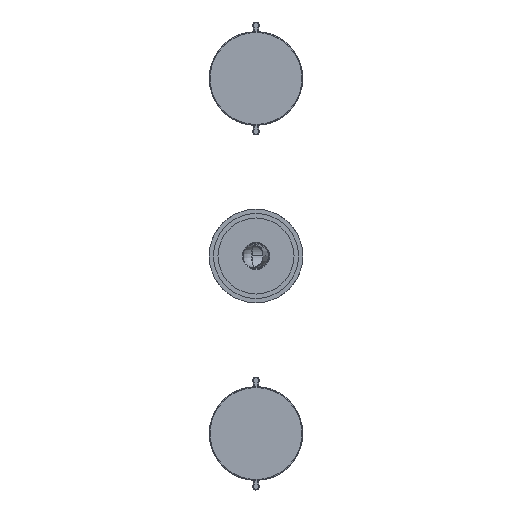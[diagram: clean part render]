
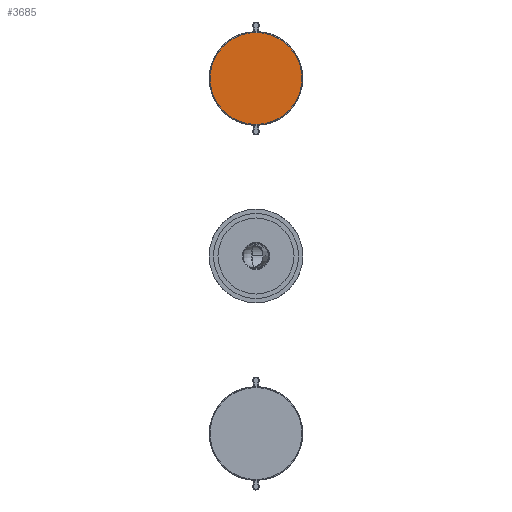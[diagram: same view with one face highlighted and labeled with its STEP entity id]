
A CAD part, left-side view. The second image highlights one B-rep face of the part: STEP entity #3685.
In plain terms, the highlighted planar face has unit normal (-1, 0, 0).
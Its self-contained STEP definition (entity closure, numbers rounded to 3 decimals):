
#3641=CARTESIAN_POINT('',(-15.0,26.,110.0));
#3642=VERTEX_POINT('',#3641);
#3651=CARTESIAN_POINT('',(-15.0,-31.,110.0));
#3652=VERTEX_POINT('',#3651);
#3660=CARTESIAN_POINT('',(-15.0,-2.5,110.0));
#3661=DIRECTION('',(-1.0,0.0,0.0));
#3662=DIRECTION('',(0.0,1.0,0.0));
#3663=AXIS2_PLACEMENT_3D('',#3660,#3661,#3662);
#3664=CIRCLE('',#3663,28.5);
#3665=EDGE_CURVE('',#3642,#3652,#3664,.T.);
#3670=CARTESIAN_POINT('',(-15.0,-33.85,141.35));
#3671=DIRECTION('',(-1.0,0.0,0.0));
#3672=DIRECTION('',(0.0,1.0,0.0));
#3673=AXIS2_PLACEMENT_3D('',#3670,#3671,#3672);
#3674=PLANE('',#3673);
#3675=CARTESIAN_POINT('',(-15.0,-2.5,110.0));
#3676=DIRECTION('',(-1.0,0.0,0.0));
#3677=DIRECTION('',(0.0,-1.0,0.0));
#3678=AXIS2_PLACEMENT_3D('',#3675,#3676,#3677);
#3679=CIRCLE('',#3678,28.5);
#3680=EDGE_CURVE('',#3652,#3642,#3679,.T.);
#3681=ORIENTED_EDGE('',*,*,#3680,.T.);
#3682=ORIENTED_EDGE('',*,*,#3665,.T.);
#3683=EDGE_LOOP('',(#3681,#3682));
#3684=FACE_OUTER_BOUND('',#3683,.T.);
#3685=ADVANCED_FACE('',(#3684),#3674,.T.);
